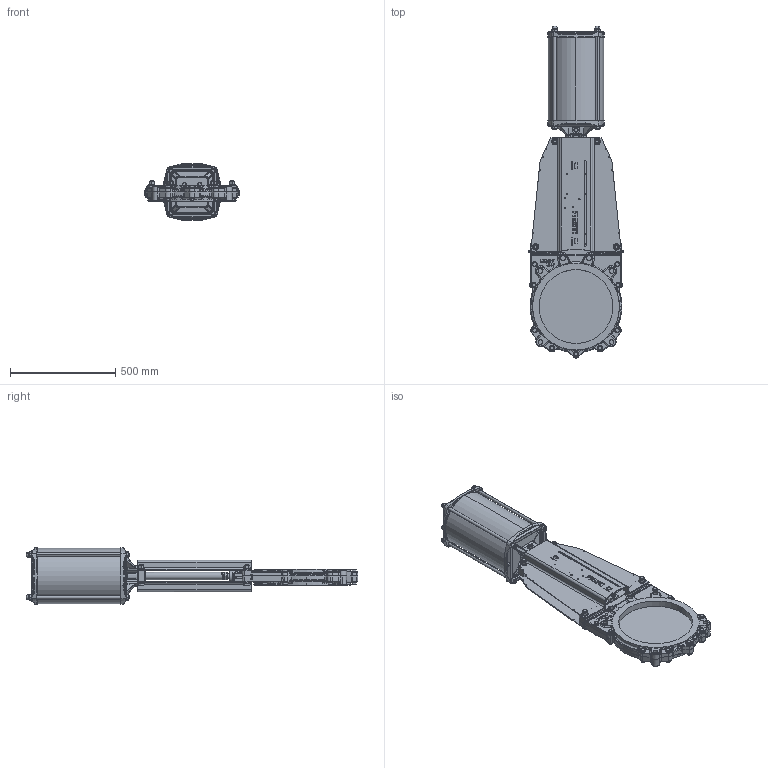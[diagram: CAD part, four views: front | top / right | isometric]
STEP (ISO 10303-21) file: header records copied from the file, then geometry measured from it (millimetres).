
FILE_DESCRIPTION (( 'STEP AP214' ), '1' );
FILE_NAME ('VSC DN 0350.STEP', '2015-09-23T11:13:38', ( 'admin' ), ( 'Hewlett-Packard Company' ), 'SwSTEP 2.0', 'SolidWorks 2013', '' );
FILE_SCHEMA (( 'AUTOMOTIVE_DESIGN' ));
Length unit declared in the file: millimetre
Products named in the file (1): VSC DN 0350
Bounding box: 452 x 1573.43 x 270 mm (x, y, z)
Volume: 16547448 mm3; surface area: 3015194 mm2
Topology: 87 solids, 90 shells, 4327 faces, 10259 edges, 5975 vertices
Faces by surface type: plane 1288, cylinder 1145, cone 775, bspline 769, torus 266, sphere 84
Entity records: 200968 total; most frequent: CARTESIAN_POINT 59643, ORIENTED_EDGE 20022, DIRECTION 18512, EDGE_CURVE 10011, AXIS2_PLACEMENT_3D 7473, VERTEX_POINT 5967, EDGE_LOOP 4704, UNCERTAINTY_MEASURE_WITH_UNIT 4414
